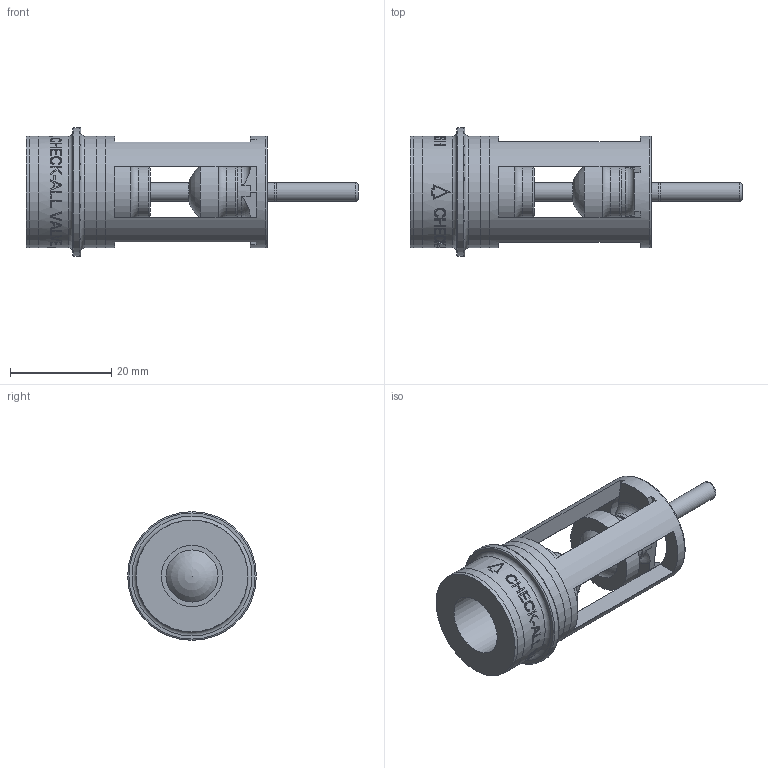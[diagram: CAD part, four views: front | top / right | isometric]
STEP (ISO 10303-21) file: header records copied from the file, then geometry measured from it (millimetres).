
FILE_DESCRIPTION(/* description */ ('Unknown'),/* implementation_level */ '2;1');
FILE_NAME(/* name */ '3SH',/* time_stamp */ '2024-07-31T15:53:56-05:00',/* author */ ('Unknown'),/* organization */ ('Unknown'),/* preprocessor_version */ 'ST-DEVELOPER v19.4',/* originating_system */ 'Solid Edge',/* authorisation */ 'Unknown');
FILE_SCHEMA (('AUTOMOTIVE_DESIGN {1 0 10303 214 3 1 1}'));
Length unit declared in the file: millimetre
Products named in the file (1): 3SH
Bounding box: 65.53 x 25.4 x 25.4 mm (x, y, z)
Volume: 9791.8 mm3; surface area: 6789.8 mm2
Topology: 1 solids, 1 shells, 311 faces, 797 edges, 527 vertices
Faces by surface type: plane 161, bspline 85, cylinder 50, torus 13, sphere 2
Full cylindrical faces by diameter (mm): 3.607 x3, 3.632 x1, 9.906 x2, 9.907 x1, 12.09 x1, 15.697 x2, 15.723 x1, 22.073 x4, 22.098 x2, 25.4 x1
Entity records: 14968 total; most frequent: CARTESIAN_POINT 6785, ORIENTED_EDGE 1498, EDGE_CURVE 749, DIRECTION 674, B_SPLINE_CURVE_WITH_KNOTS 608, VERTEX_POINT 516, EDGE_LOOP 399, FACE_BOUND 399
